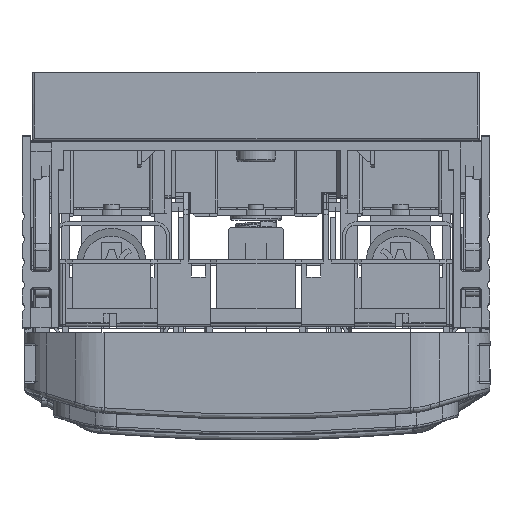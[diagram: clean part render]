
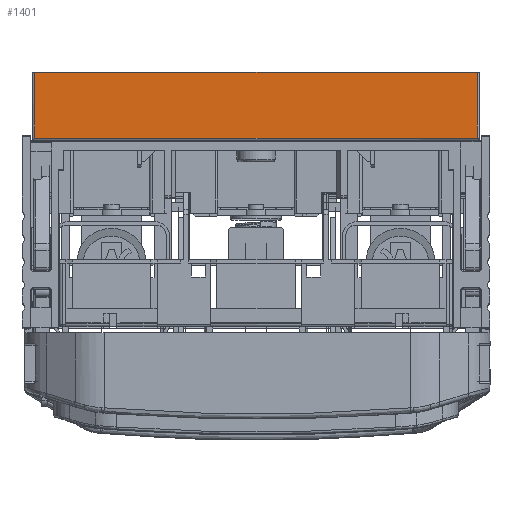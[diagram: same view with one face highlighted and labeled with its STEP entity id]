
A CAD part, top view. The second image highlights one B-rep face of the part: STEP entity #1401.
In plain terms, the highlighted planar face has unit normal (0, 0, 1).
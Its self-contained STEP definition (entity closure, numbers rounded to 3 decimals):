
#1401=ADVANCED_FACE('',(#3148),#48702,.T.);
#3148=FACE_OUTER_BOUND('',#4938,.T.);
#4938=EDGE_LOOP('',(#11772,#11773,#11774,#11775));
#11772=ORIENTED_EDGE('',*,*,#23297,.F.);
#11773=ORIENTED_EDGE('',*,*,#23294,.F.);
#11774=ORIENTED_EDGE('',*,*,#23290,.F.);
#11775=ORIENTED_EDGE('',*,*,#23296,.F.);
#23290=EDGE_CURVE('',#43170,#43171,#35665,.T.);
#23294=EDGE_CURVE('',#43171,#43174,#35668,.T.);
#23296=EDGE_CURVE('',#43175,#43170,#35669,.T.);
#23297=EDGE_CURVE('',#43174,#43175,#35670,.T.);
#35665=B_SPLINE_CURVE_WITH_KNOTS('',1,(#75619,#75620),.UNSPECIFIED.,.F.,
 .F.,(2,2),(0.,174.7),.UNSPECIFIED.);
#35668=B_SPLINE_CURVE_WITH_KNOTS('',1,(#75628,#75629),.UNSPECIFIED.,.F.,
 .F.,(2,2),(0.,26.),.UNSPECIFIED.);
#35669=B_SPLINE_CURVE_WITH_KNOTS('',1,(#75634,#75635),.UNSPECIFIED.,.F.,
 .F.,(2,2),(0.,26.),.UNSPECIFIED.);
#35670=B_SPLINE_CURVE_WITH_KNOTS('',1,(#75636,#75637),.UNSPECIFIED.,.F.,
 .F.,(2,2),(0.,174.7),.UNSPECIFIED.);
#43170=VERTEX_POINT('',#73425);
#43171=VERTEX_POINT('',#73426);
#43174=VERTEX_POINT('',#73429);
#43175=VERTEX_POINT('',#73430);
#48702=PLANE('',#50631);
#50631=AXIS2_PLACEMENT_3D('',#72769,#54546,$);
#54546=DIRECTION('',(0.,0.,1.));
#72769=CARTESIAN_POINT('',(91.051,73.3,130.191));
#73425=CARTESIAN_POINT('',(-83.649,99.3,130.191));
#73426=CARTESIAN_POINT('',(91.051,99.3,130.191));
#73429=CARTESIAN_POINT('',(91.051,73.3,130.191));
#73430=CARTESIAN_POINT('',(-83.649,73.3,130.191));
#75619=CARTESIAN_POINT('',(-83.649,99.3,130.191));
#75620=CARTESIAN_POINT('',(91.051,99.3,130.191));
#75628=CARTESIAN_POINT('',(91.051,99.3,130.191));
#75629=CARTESIAN_POINT('',(91.051,73.3,130.191));
#75634=CARTESIAN_POINT('',(-83.649,73.3,130.191));
#75635=CARTESIAN_POINT('',(-83.649,99.3,130.191));
#75636=CARTESIAN_POINT('',(91.051,73.3,130.191));
#75637=CARTESIAN_POINT('',(-83.649,73.3,130.191));
